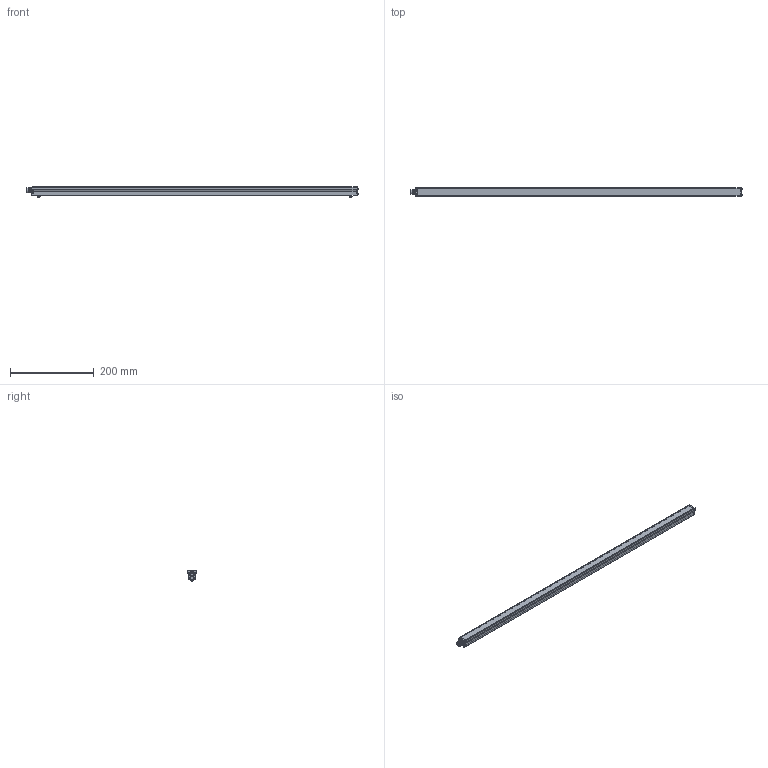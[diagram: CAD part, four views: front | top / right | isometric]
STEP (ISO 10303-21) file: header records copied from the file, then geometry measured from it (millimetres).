
FILE_DESCRIPTION (( 'STEP AP214' ), '1' );
FILE_NAME ('AL126 _NONSEALED__AL12630.stp', '2021-04-29T14:25:19', ( '' ), ( '' ), 'SwSTEP 2.0', 'SolidWorks 2018', '' );
FILE_SCHEMA (( 'AUTOMOTIVE_DESIGN' ));
Length unit declared in the file: inch
Products named in the file (15): BH-M4x6; 10mm Advanced illumination; 10mm Label (116 126)_Default<As Machined>; 091052 (116 126); 091064_Model_Dome Fittings_Thread Type and Size(Dome)_M10 x 1.5_Hazardous Location-Explosive Proof(ATEX and EExe Versions)_No_; AL126 _NONSEALED__AL12630; 090876; 10mm Ai; 090875; HN-M4_90592A016; 090877-XX_090877-30; 093474_093474; 090889-XX_090889-30; 10mm Swish_Default<As Machined>; 093469_093469
Assembly tree (24 placements, depth 3):
  AL126 _NONSEALED__AL12630
    090889-XX_090889-30
    090877-XX_090877-30
    090875
    090876
    093474_093474  x8
    093469_093469  x2
    091064_Model_Dome Fittings_Thread Type and Size(Dome)_M10 x 1.5_Hazardous Location-Explosive Proof(ATEX and EExe Versions)_No_
    HN-M4_90592A016  x2
    BH-M4x6  x2
    091052 (116 126)
      10mm Label (116 126)_Default<As Machined>
      10mm Ai
      10mm Swish_Default<As Machined>
      10mm Advanced illumination
Bounding box: 791.13 x 20.02 x 24.1 mm (x, y, z)
Volume: 106202.6 mm3; surface area: 151498.8 mm2
Topology: 48 solids, 48 shells, 1877 faces, 4840 edges, 3010 vertices
Faces by surface type: cylinder 934, plane 401, cone 362, bspline 120, torus 60
Entity records: 30293 total; most frequent: CARTESIAN_POINT 10456, ORIENTED_EDGE 4076, DIRECTION 3580, EDGE_CURVE 2038, VERTEX_POINT 1298, AXIS2_PLACEMENT_3D 1276, VECTOR 1028, LINE 1028
